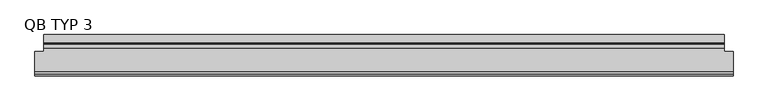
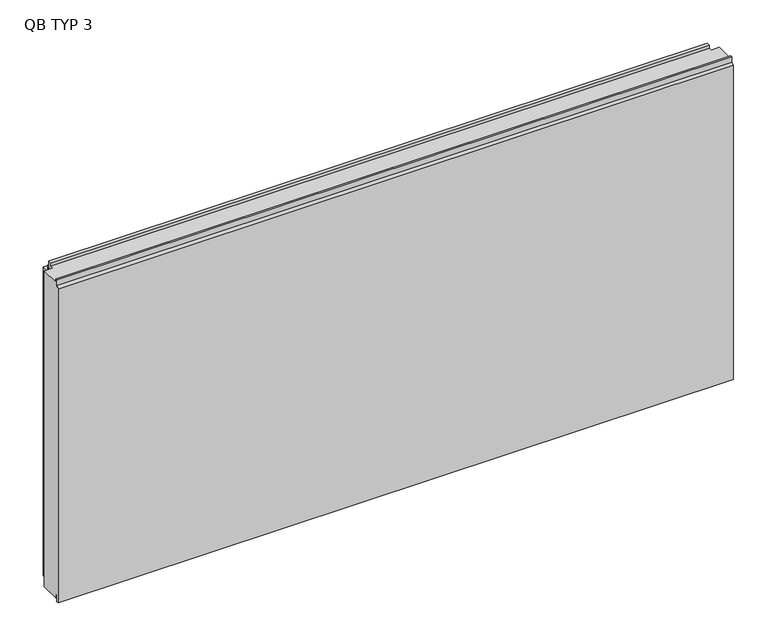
"""IFC4 building model written with IfcOpenShell, lengths in millimetres: plate geometry, TR_C_H_QBISS_Panel : QB TYP 3."""

import ifcopenshell
import ifcopenshell.guid

model = None  # the IFC model being written
_history = None  # IfcOwnerHistory: only IFC2X3 demands one
_inside = {}  # id of a spatial element -> (the spatial element, [elements in it])
_under = {}  # id of a project, library or spatial element -> (it, [spatial elements below it])
_declared = {}  # id of a project -> (the project, [libraries it declares])
_typed = {}  # id of a type object -> (the type object, [elements of that type])
_made_of = {}  # id of a material, layer set ... -> (it, [elements and type objects made of it])


def new_model(schema):
    """Start an empty IFC model of exactly this schema.

    Asked for "IFC4X3", IfcOpenShell would pick the latest addendum, in which some entities
    have other attributes; the version numbers below select the first issue.
    IFC2X3 requires an IfcOwnerHistory on every rooted entity: one is made here for all.
    """
    global model, _history
    if schema == "IFC4X3":
        model = ifcopenshell.file(schema_version=(4, 3, 0, 0))
    else:
        model = ifcopenshell.file(schema=schema)
    _inside.clear()
    _under.clear()
    _declared.clear()
    _typed.clear()
    _made_of.clear()
    _history = None
    if model.schema == "IFC2X3":
        org = make("IfcOrganization", Name="unknown")
        user = make(
            "IfcPersonAndOrganization",
            ThePerson=make("IfcPerson", FamilyName="unknown"),
            TheOrganization=org,
        )
        app = make(
            "IfcApplication",
            ApplicationDeveloper=org,
            Version="unknown",
            ApplicationFullName="unknown",
            ApplicationIdentifier="unknown",
        )
        _history = make(
            "IfcOwnerHistory",
            OwningUser=user,
            OwningApplication=app,
            ChangeAction="ADDED",
            CreationDate=0,
        )
    return model


def make(cls, **values):
    """One entity of the class cls with the attributes given. An attribute that is None is left unset."""
    return model.create_entity(
        cls, **{name: value for name, value in values.items() if value is not None}
    )


def rooted(cls, **values):
    """An entity with a GlobalId (a new one), such as an element, a storey or a relation."""
    return make(cls, GlobalId=ifcopenshell.guid.new(), OwnerHistory=_history, **values)


def si_unit(unit_type, name, prefix=None):
    """IfcSIUnit, for example si_unit("LENGTHUNIT", "METRE", prefix="MILLI")."""
    return make("IfcSIUnit", UnitType=unit_type, Prefix=prefix, Name=name)


def assignment(units):
    """IfcUnitAssignment: the units of a project."""
    return None if units is None else make("IfcUnitAssignment", Units=units)


def point(xyz):
    """IfcCartesianPoint."""
    return None if xyz is None else make("IfcCartesianPoint", Coordinates=xyz)


def direction(xyz):
    """IfcDirection."""
    return None if xyz is None else make("IfcDirection", DirectionRatios=xyz)


def frame(location, z_axis=None, x_axis=None):
    """IfcAxis2Placement3D, a coordinate frame: its origin and axes. An axis left out is left unset."""
    return make(
        "IfcAxis2Placement3D",
        Location=point(location),
        Axis=direction(z_axis),
        RefDirection=direction(x_axis),
    )


def origin():
    """The frame at (0, 0, 0) with its axes left unset."""
    return frame((0.0, 0.0, 0.0))


def place(relative_to, where):
    """IfcLocalPlacement: puts the frame where relative to a parent placement (None: the world)."""
    return make(
        "IfcLocalPlacement", PlacementRelTo=relative_to, RelativePlacement=where
    )


def context(
    kind, dimensions, precision=None, world=None, true_north=None, identifier=None
):
    """IfcGeometricRepresentationContext, for example the 3D "Model" context."""
    return make(
        "IfcGeometricRepresentationContext",
        ContextIdentifier=identifier,
        ContextType=kind,
        CoordinateSpaceDimension=dimensions,
        Precision=precision,
        WorldCoordinateSystem=world,
        TrueNorth=true_north,
    )


def project(units=None, contexts=None):
    """IfcProject with its units and contexts."""
    return rooted(
        "IfcProject",
        Name="project",
        RepresentationContexts=contexts,
        UnitsInContext=assignment(units),
    )


def spatial(cls, under=None, at=None, **own):
    """A site, building, storey or space (cls), placed at a placement, below another one or the project."""
    s = rooted(cls, ObjectPlacement=at, **own)
    if under is not None:
        _under.setdefault(under.id(), (under, []))[1].append(s)
    return s


def polyline(points):
    """IfcPolyline through the points."""
    return make("IfcPolyline", Points=[point(p) for p in points])


def outline(outer, holes=None, kind="AREA"):
    """IfcArbitraryClosedProfileDef: a profile drawn as a closed curve; with holes, ...WithVoids."""
    if holes is None:
        return make("IfcArbitraryClosedProfileDef", ProfileType=kind, OuterCurve=outer)
    return make(
        "IfcArbitraryProfileDefWithVoids",
        ProfileType=kind,
        OuterCurve=outer,
        InnerCurves=holes,
    )


def extrude(swept, where, along, depth):
    """IfcExtrudedAreaSolid: the profile swept, set in the frame where, extruded along a direction by depth."""
    return make(
        "IfcExtrudedAreaSolid",
        SweptArea=swept,
        Position=where,
        ExtrudedDirection=direction(along),
        Depth=depth,
    )


def faces_of(points, faces, orient=None, outer=None):
    """IfcFace entities. A face is a list of loops; a loop is a list of indices into points, from 0.

    orient and outer hold one flag for each loop. By default every Orientation is true, the
    first loop of a face is its IfcFaceOuterBound and the others are IfcFaceBound.
    """
    made = []
    for i, loops in enumerate(faces):
        bounds = []
        for j, loop in enumerate(loops):
            is_outer = j == 0 if outer is None else outer[i][j]
            bounds.append(
                make(
                    "IfcFaceOuterBound" if is_outer else "IfcFaceBound",
                    Bound=make("IfcPolyLoop", Polygon=[points[k] for k in loop]),
                    Orientation=True if orient is None else orient[i][j],
                )
            )
        made.append(make("IfcFace", Bounds=bounds))
    return made


def faceted_brep(points, faces, orient=None, outer=None, voids=None):
    """IfcFacetedBrep: a solid bounded by flat faces; with voids (closed shells), ...WithVoids."""
    shared = [point(p) for p in points]
    hull = make("IfcClosedShell", CfsFaces=faces_of(shared, faces, orient, outer))
    if voids is None:
        return make("IfcFacetedBrep", Outer=hull)
    return make(
        "IfcFacetedBrepWithVoids",
        Outer=hull,
        Voids=[
            make(cls, CfsFaces=faces_of(shared, fs, o, b)) for cls, fs, o, b in voids
        ],
    )


def shape(context_of_items, identifier, shape_type, items):
    """IfcShapeRepresentation: the items that make up one representation, for example the "Body"."""
    return make(
        "IfcShapeRepresentation",
        ContextOfItems=context_of_items,
        RepresentationIdentifier=identifier,
        RepresentationType=shape_type,
        Items=items,
    )


def source(mapping_origin, context_of_items, identifier, shape_type, items):
    """IfcRepresentationMap: a shape defined once, which mapped items show again and again."""
    return make(
        "IfcRepresentationMap",
        MappingOrigin=mapping_origin,
        MappedRepresentation=shape(context_of_items, identifier, shape_type, items),
    )


def transform(
    local_origin,
    x_axis=None,
    y_axis=None,
    z_axis=None,
    scale=None,
    scale2=None,
    scale3=None,
    uniform=True,
):
    """IfcCartesianTransformationOperator3D, or its non-uniform kind. x_axis, y_axis, z_axis: its Axis1, 2, 3."""
    if uniform:
        return make(
            "IfcCartesianTransformationOperator3D",
            Axis1=direction(x_axis),
            Axis2=direction(y_axis),
            LocalOrigin=point(local_origin),
            Scale=scale,
            Axis3=direction(z_axis),
        )
    return make(
        "IfcCartesianTransformationOperator3DnonUniform",
        Axis1=direction(x_axis),
        Axis2=direction(y_axis),
        LocalOrigin=point(local_origin),
        Scale=scale,
        Axis3=direction(z_axis),
        Scale2=scale2,
        Scale3=scale3,
    )


def mapped(mapping_source, mapping_target):
    """IfcMappedItem: shows the shape of a source again, moved by a transform."""
    return make(
        "IfcMappedItem", MappingSource=mapping_source, MappingTarget=mapping_target
    )


def made_of(thing, what):
    """Note that an element or type object is made of a material, layer set ...; save() writes the relation."""
    if what is not None:
        _made_of.setdefault(what.id(), (what, []))[1].append(thing)
    return thing


def element(
    cls,
    number,
    at=None,
    inside=None,
    cuts=None,
    type_object=None,
    material=None,
    context=None,
    identifier="Body",
    shape_type=None,
    held_by="IfcProductDefinitionShape",
    body=None,
    shapes=None,
    **own,
):
    """One element of the class cls, such as IfcWall. Its Tag is "e" and its number.

    at: its placement. inside: the storey or other place that contains it. cuts: it is an
    opening in that element (IfcRelVoidsElement). A single representation is given by context,
    identifier, shape_type and body (its items); several are given by shapes. held_by: the class
    of the entity that holds the representations. save() writes the other relations.
    """
    e = rooted(cls, Tag="e%d" % number, ObjectPlacement=at, **own)
    if body is not None:
        shapes = [shape(context, identifier, shape_type, body)]
    if shapes is not None:
        e.Representation = make(held_by, Representations=shapes)
    if inside is not None:
        _inside.setdefault(inside.id(), (inside, []))[1].append(e)
    if cuts is not None:
        rooted(
            "IfcRelVoidsElement", RelatingBuildingElement=cuts, RelatedOpeningElement=e
        )
    if type_object is not None:
        _typed.setdefault(type_object.id(), (type_object, []))[1].append(e)
    return made_of(e, material)


def aggregate(whole, parts):
    """IfcRelAggregates: a whole, such as a stair, and the parts it consists of."""
    return rooted("IfcRelAggregates", RelatingObject=whole, RelatedObjects=parts)


def save(model, path):
    """Write the relations noted so far, then the file.

    IfcRelAggregates (storeys below a building ...), IfcRelContainedInSpatialStructure (elements
    in a storey), IfcRelDefinesByType, IfcRelAssociatesMaterial and IfcRelDeclares: one each for
    every whole, place, type object, material and project.
    """
    for whole, parts in _under.values():
        aggregate(whole, parts)
    for where, things in _inside.values():
        rooted(
            "IfcRelContainedInSpatialStructure",
            RelatedElements=things,
            RelatingStructure=where,
        )
    for kind, things in _typed.values():
        rooted("IfcRelDefinesByType", RelatedObjects=things, RelatingType=kind)
    for what, things in _made_of.values():
        rooted("IfcRelAssociatesMaterial", RelatedObjects=things, RelatingMaterial=what)
    for by, libraries in _declared.values():
        rooted("IfcRelDeclares", RelatingContext=by, RelatedDefinitions=libraries)
    model.write(path)


def qb_typ_3_c4b4b162(model_context):
    return source(origin(), model_context, "Body", "SolidModel", [
        faceted_brep([(1010.15, -108.0, 1000.0), (1010.15, -108.0, 1010.0), (1010.15, -114.0, 1010.0), (1010.15, -114.0, 992.0), (1010.15, -120.0, 986.0), (1010.15, -120.0, -8.0), (1010.15, -114.0, -8.0), (1010.15, -114.0, 13.0), (1010.15, -108.0, 13.0), (1010.15, -108.0, 0.0), (1010.15, -49.0, 0.0), (1010.15, -49.0, 1000.0), (-1010.15, -108.0, 0.0), (-1010.15, -108.0, 13.0), (-1010.15, -114.0, 13.0), (-1010.15, -114.0, -8.0), (-1010.15, -120.0, -8.0), (-1010.15, -120.0, 986.0), (-1010.15, -114.0, 992.0), (-1010.15, -114.0, 1010.0), (-1010.15, -108.0, 1010.0), (-1010.15, -108.0, 1000.0), (-1010.15, -49.0, 1000.0), (-1010.15, -49.0, 0.0), (-985.05, -49.0, 0.0), (-985.05, -39.0, 0.0), (985.05, -39.0, 0.0), (985.05, -49.0, 0.0), (-985.05, -39.0, 13.0), (985.05, -39.0, 13.0), (-985.05, -29.0, 13.0), (985.05, -29.0, 13.0), (-985.05, -29.0, -4.0), (985.05, -29.0, -4.0), (-985.05, 0.0, -4.0), (985.05, 0.0, -4.0), (-985.05, 0.0, 973.0), (985.05, 0.0, 973.0), (-985.05, -29.0, 973.0), (985.05, -29.0, 973.0), (-985.05, -29.0, 1010.0), (985.05, -29.0, 1010.0), (-985.05, -39.0, 1010.0), (985.05, -39.0, 1010.0), (-985.05, -39.0, 1000.0), (985.05, -39.0, 1000.0), (985.05, -49.0, 1000.0), (-985.05, -49.0, 1000.0)], [[[0, 1, 2, 3, 4, 5, 6, 7, 8, 9, 10, 11]], [[12, 13, 14, 15, 16, 17, 18, 19, 20, 21, 22, 23]], [[9, 12, 23, 24, 25, 26, 27, 10]], [[26, 25, 28, 29]], [[29, 28, 30, 31]], [[31, 30, 32, 33]], [[33, 32, 34, 35]], [[35, 34, 36, 37]], [[37, 36, 38, 39]], [[39, 38, 40, 41]], [[41, 40, 42, 43]], [[43, 42, 44, 45]], [[21, 0, 11, 46, 45, 44, 47, 22]], [[1, 0, 21, 20]], [[2, 1, 20, 19]], [[3, 2, 19, 18]], [[4, 3, 18, 17]], [[5, 4, 17, 16]], [[6, 5, 16, 15]], [[7, 6, 15, 14]], [[8, 7, 14, 13]], [[9, 8, 13, 12]], [[47, 24, 23, 22]], [[24, 47, 44, 42, 40, 38, 36, 34, 32, 30, 28, 25]], [[46, 27, 26, 29, 31, 33, 35, 37, 39, 41, 43, 45]], [[27, 46, 11, 10]]]),
        extrude(outline(polyline([(-24.0, 994.5), (-24.0, 974.5), (-25.4998317, 974.5), (-25.4998317, 981.3023028), (-27.9998293, 981.3023028), (-27.9998293, 980.5023028), (-28.7998428, 980.5023028), (-28.7998428, 988.5023593), (-27.9998293, 988.5023593), (-27.9998293, 987.7023593), (-25.4998317, 987.7023593), (-25.4998317, 994.5), (-24.0, 994.5)])), frame((-985.05, 0.0, 0.0), z_axis=(1.0, 0.0, 0.0), x_axis=(0.0, 1.0, 0.0)), (0.0, 0.0, 1.0), 1970.1),
    ])


if __name__ == "__main__":
    model = new_model("IFC4")
    model_context = context("Model", 3, world=origin())
    ifc_project = project(units=[si_unit("LENGTHUNIT", "METRE", prefix="MILLI")], contexts=[model_context])
    site = spatial("IfcSite", under=ifc_project)
    building = spatial("IfcBuilding", under=site)
    placement = place(None, origin())
    qb_typ_3_shape = qb_typ_3_c4b4b162(model_context)
    element("IfcPlate", 1, ObjectType="TR_C_H_QBISS_Panel : QB TYP 3", at=placement, inside=building, context=model_context, shape_type="MappedRepresentation", body=[
        mapped(qb_typ_3_shape, transform((0.0, 0.0, 0.0), x_axis=(1.0, 0.0, 0.0), y_axis=(0.0, 1.0, 0.0), z_axis=(0.0, 0.0, 1.0))),
    ])
    save(model, "model.ifc")
